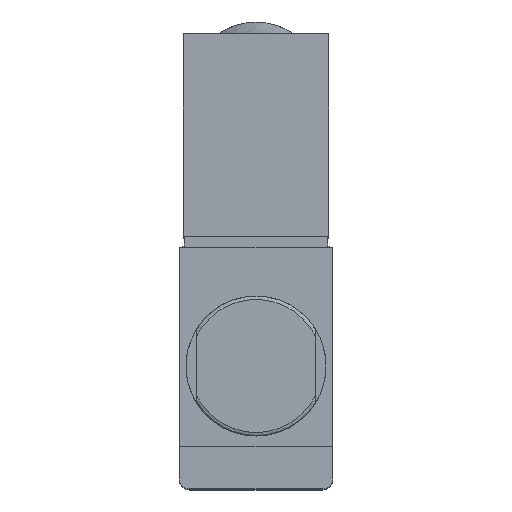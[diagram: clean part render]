
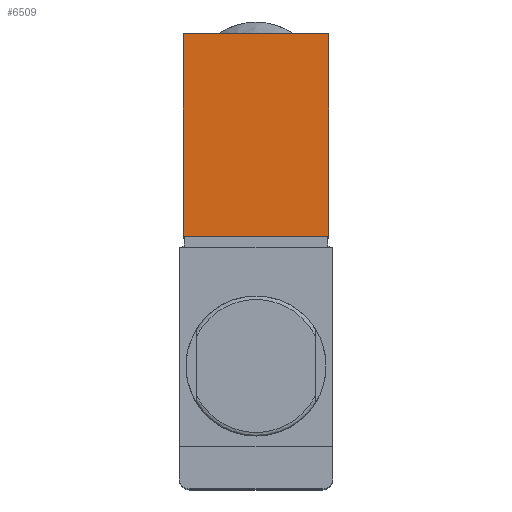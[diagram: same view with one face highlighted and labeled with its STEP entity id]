
A CAD part, top view. The second image highlights one B-rep face of the part: STEP entity #6509.
In plain terms, the highlighted planar face has unit normal (0, 0, 1).
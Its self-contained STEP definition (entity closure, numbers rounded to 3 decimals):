
#733=LINE('',#10545,#1424);
#735=LINE('',#10549,#1426);
#737=LINE('',#10553,#1428);
#738=LINE('',#10554,#1429);
#1424=VECTOR('',#8618,1000.);
#1426=VECTOR('',#8622,1000.);
#1428=VECTOR('',#8626,1000.);
#1429=VECTOR('',#8627,1000.);
#1843=FACE_OUTER_BOUND('',#2214,.T.);
#2214=EDGE_LOOP('',(#5417,#5418,#5419,#5420));
#2912=VERTEX_POINT('',#10542);
#2913=VERTEX_POINT('',#10544);
#2914=VERTEX_POINT('',#10548);
#2915=VERTEX_POINT('',#10552);
#3756=EDGE_CURVE('',#2913,#2912,#733,.T.);
#3758=EDGE_CURVE('',#2914,#2913,#735,.T.);
#3760=EDGE_CURVE('',#2915,#2912,#737,.T.);
#3761=EDGE_CURVE('',#2914,#2915,#738,.T.);
#5417=ORIENTED_EDGE('',*,*,#3756,.T.);
#5418=ORIENTED_EDGE('',*,*,#3760,.F.);
#5419=ORIENTED_EDGE('',*,*,#3761,.F.);
#5420=ORIENTED_EDGE('',*,*,#3758,.T.);
#5827=PLANE('',#7015);
#6509=ADVANCED_FACE('',(#1843),#5827,.F.);
#7015=AXIS2_PLACEMENT_3D('',#10551,#8624,#8625);
#8618=DIRECTION('',(1.,0.,0.));
#8622=DIRECTION('',(0.,-1.,0.));
#8624=DIRECTION('center_axis',(0.,0.,-1.));
#8625=DIRECTION('ref_axis',(-1.,0.,0.));
#8626=DIRECTION('',(0.,-1.,0.));
#8627=DIRECTION('',(1.,0.,0.));
#10542=CARTESIAN_POINT('',(10.4,36.,156.2));
#10544=CARTESIAN_POINT('',(-10.4,36.,156.2));
#10545=CARTESIAN_POINT('',(-10.4,36.,156.2));
#10548=CARTESIAN_POINT('',(-10.4,65.,156.2));
#10549=CARTESIAN_POINT('',(-10.4,65.,156.2));
#10551=CARTESIAN_POINT('Origin',(-10.4,65.,156.2));
#10552=CARTESIAN_POINT('',(10.4,65.,156.2));
#10553=CARTESIAN_POINT('',(10.4,65.,156.2));
#10554=CARTESIAN_POINT('',(-10.4,65.,156.2));
